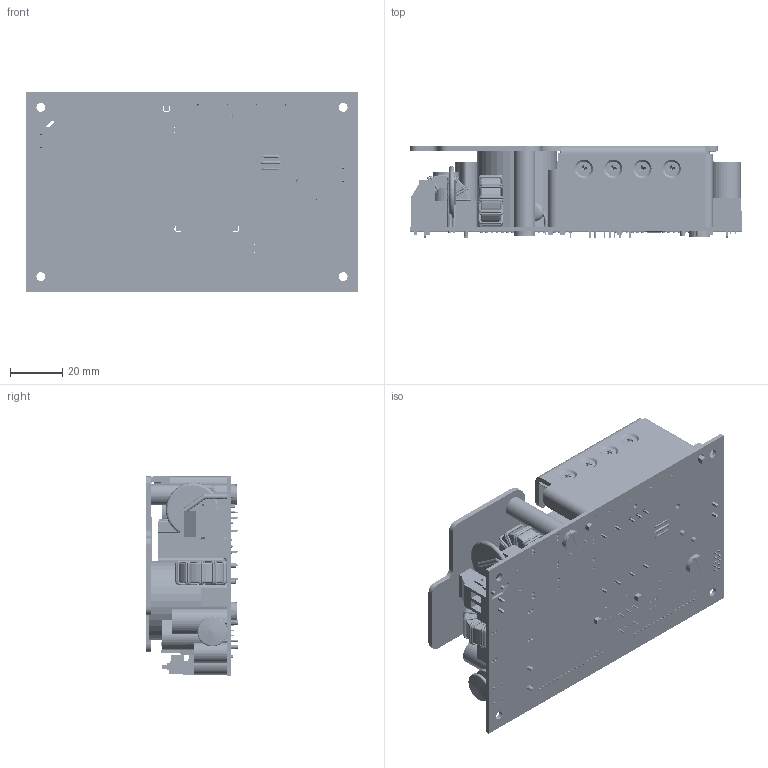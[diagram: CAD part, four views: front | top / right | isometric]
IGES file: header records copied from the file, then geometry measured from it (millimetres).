
Start section: SolidWorks IGES file using analytic representation for surfaces
Global section: file name: H:\Martin Beeson\DMA IGES\DMA212 _latest.IGS; native system: SolidWorks 2011; preprocessor: SolidWorks 2011; author: mbeeson; date: 111205.101042; units: millimetre
Bounding box: 127 x 35.1 x 76.2 mm (x, y, z)
Surface area: 112370.3 mm2 (no closed solid volume)
Topology: 0 solids, 0 shells, 5444 faces, 46798 edges, 46700 vertices
Faces by surface type: bspline 3697, revolution 1747
